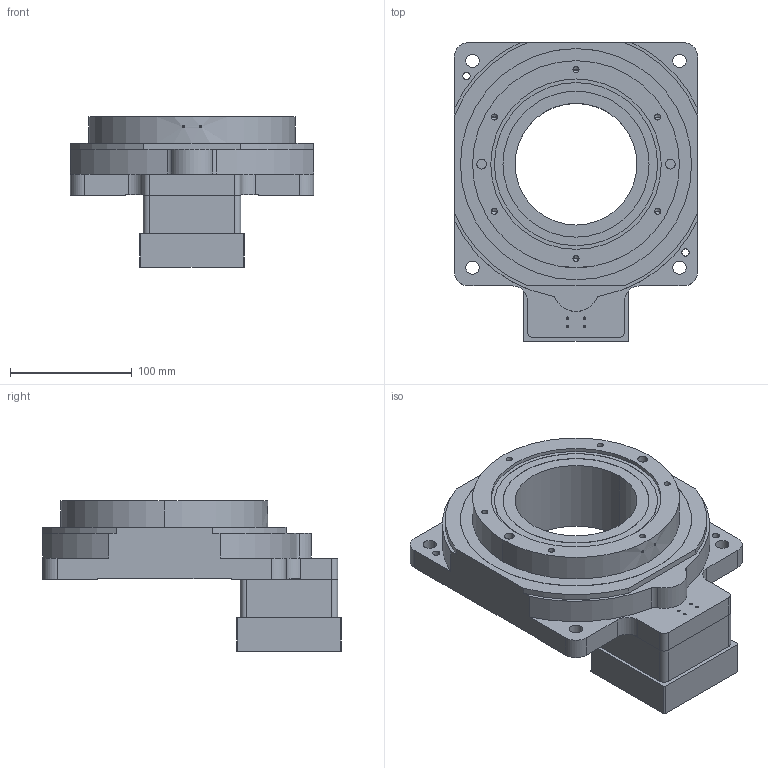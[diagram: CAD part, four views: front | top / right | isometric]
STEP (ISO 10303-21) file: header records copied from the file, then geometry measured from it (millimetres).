
FILE_DESCRIPTION (( 'STEP AP214' ), '1' );
FILE_NAME ('TS200-10K-57²½½ø 73 ¦µ14.STEP', '2020-05-15T07:53:45', ( '' ), ( '' ), 'SwSTEP 2.0', 'SolidWorks 2020', '' );
FILE_SCHEMA (( 'AUTOMOTIVE_DESIGN' ));
Length unit declared in the file: millimetre
Products named in the file (3): 1; TS200-10K-57祭輛 73 朴14; TS200-10K-750W-M4
Assembly tree (2 placements, depth 2):
  TS200-10K-57祭輛 73 朴14
    TS200-10K-750W-M4
    1
Bounding box: 200 x 245.5 x 123.5 mm (x, y, z)
Volume: 1972762.1 mm3; surface area: 184542.2 mm2
Topology: 3 solids, 3 shells, 194 faces, 498 edges, 312 vertices
Faces by surface type: cylinder 108, plane 62, cone 24
Entity records: 5983 total; most frequent: DIRECTION 1082, CARTESIAN_POINT 1053, ORIENTED_EDGE 948, EDGE_CURVE 474, AXIS2_PLACEMENT_3D 413, VERTEX_POINT 312, LINE 256, VECTOR 256
